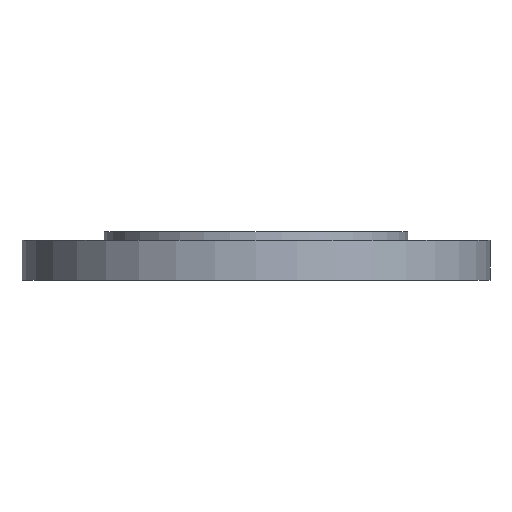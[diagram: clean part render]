
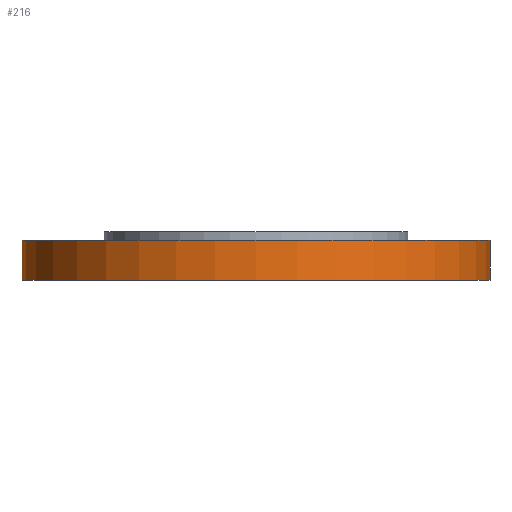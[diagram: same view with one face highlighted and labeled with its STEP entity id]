
A CAD part, front view. The second image highlights one B-rep face of the part: STEP entity #216.
In plain terms, the highlighted cylindrical face has radius 135 mm (diameter 270 mm), a partial arc.
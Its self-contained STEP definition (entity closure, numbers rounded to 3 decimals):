
#21 = DIRECTION ( 'NONE',  ( -1., 0., 0. ) ) ;
#32 = FACE_OUTER_BOUND ( 'NONE', #708, .T. ) ;
#51 = ORIENTED_EDGE ( 'NONE', *, *, #233, .F. ) ;
#102 = CARTESIAN_POINT ( 'NONE',  ( -135., 0., -28. ) ) ;
#120 = VERTEX_POINT ( 'NONE', #102 ) ;
#127 = EDGE_CURVE ( 'NONE', #754, #630, #907, .T. ) ;
#140 = CARTESIAN_POINT ( 'NONE',  ( 135., 0., -28. ) ) ;
#196 = DIRECTION ( 'NONE',  ( 0., 0., 1. ) ) ;
#200 = CIRCLE ( 'NONE', #756, 135. ) ;
#216 = ADVANCED_FACE ( 'NONE', ( #32 ), #338, .T. ) ;
#233 = EDGE_CURVE ( 'NONE', #120, #630, #341, .T. ) ;
#248 = LINE ( 'NONE', #539, #608 ) ;
#267 = DIRECTION ( 'NONE',  ( 1., 0., 0. ) ) ;
#271 = AXIS2_PLACEMENT_3D ( 'NONE', #629, #928, #267 ) ;
#338 = CYLINDRICAL_SURFACE ( 'NONE', #271, 135. ) ;
#341 = LINE ( 'NONE', #633, #931 ) ;
#366 = CARTESIAN_POINT ( 'NONE',  ( 0., 0., -28. ) ) ;
#367 = VERTEX_POINT ( 'NONE', #140 ) ;
#396 = CARTESIAN_POINT ( 'NONE',  ( 0., 0., -5. ) ) ;
#403 = EDGE_CURVE ( 'NONE', #367, #120, #200, .T. ) ;
#481 = AXIS2_PLACEMENT_3D ( 'NONE', #396, #694, #21 ) ;
#534 = EDGE_CURVE ( 'NONE', #367, #754, #248, .T. ) ;
#539 = CARTESIAN_POINT ( 'NONE',  ( 135., 0., -78. ) ) ;
#586 = ORIENTED_EDGE ( 'NONE', *, *, #127, .T. ) ;
#608 = VECTOR ( 'NONE', #847, 1000. ) ;
#619 = ORIENTED_EDGE ( 'NONE', *, *, #534, .T. ) ;
#629 = CARTESIAN_POINT ( 'NONE',  ( 0., 0., -78. ) ) ;
#630 = VERTEX_POINT ( 'NONE', #715 ) ;
#633 = CARTESIAN_POINT ( 'NONE',  ( -135., 0., -78. ) ) ;
#658 = DIRECTION ( 'NONE',  ( 0., 0., -1. ) ) ;
#694 = DIRECTION ( 'NONE',  ( 0., 0., -1. ) ) ;
#708 = EDGE_LOOP ( 'NONE', ( #51, #966, #619, #586 ) ) ;
#715 = CARTESIAN_POINT ( 'NONE',  ( -135., 0., -5. ) ) ;
#754 = VERTEX_POINT ( 'NONE', #829 ) ;
#756 = AXIS2_PLACEMENT_3D ( 'NONE', #366, #658, #953 ) ;
#829 = CARTESIAN_POINT ( 'NONE',  ( 135., 0., -5. ) ) ;
#847 = DIRECTION ( 'NONE',  ( 0., 0., 1. ) ) ;
#907 = CIRCLE ( 'NONE', #481, 135. ) ;
#928 = DIRECTION ( 'NONE',  ( 0., 0., 1. ) ) ;
#931 = VECTOR ( 'NONE', #196, 1000. ) ;
#953 = DIRECTION ( 'NONE',  ( -1., 0., 0. ) ) ;
#966 = ORIENTED_EDGE ( 'NONE', *, *, #403, .F. ) ;
